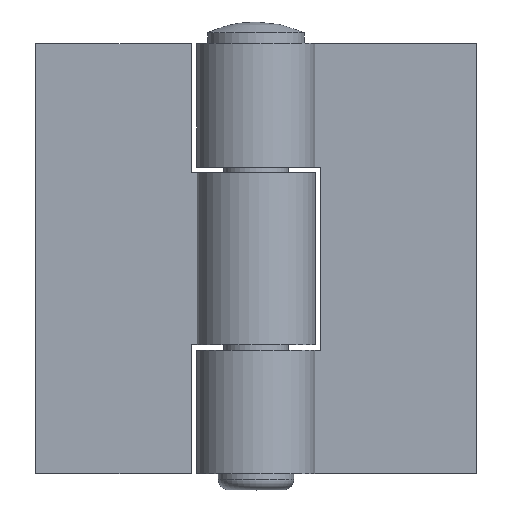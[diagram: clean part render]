
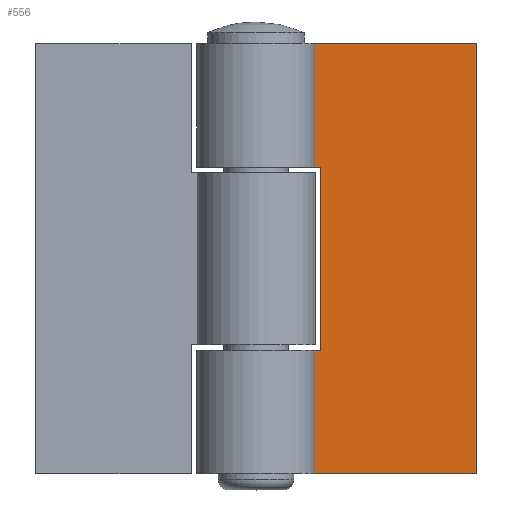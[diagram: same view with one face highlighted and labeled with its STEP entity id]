
A CAD part, top view. The second image highlights one B-rep face of the part: STEP entity #556.
In plain terms, the highlighted planar face has unit normal (0, 0, 1) as drawn and (0, 1, 0) by its records, which use the part's own axes.
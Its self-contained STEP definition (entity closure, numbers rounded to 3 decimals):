
#62=FACE_OUTER_BOUND('',#96,.T.);
#96=EDGE_LOOP('',(#451,#452,#453,#454,#455,#456,#457,#458));
#148=LINE('',#878,#202);
#150=LINE('',#884,#204);
#154=LINE('',#896,#208);
#158=LINE('',#906,#212);
#159=LINE('',#908,#213);
#160=LINE('',#910,#214);
#161=LINE('',#912,#215);
#162=LINE('',#913,#216);
#202=VECTOR('',#703,6.);
#204=VECTOR('',#709,17.);
#208=VECTOR('',#719,6.);
#212=VECTOR('',#729,11.5);
#213=VECTOR('',#730,20.5);
#214=VECTOR('',#731,40.);
#215=VECTOR('',#732,20.5);
#216=VECTOR('',#733,11.5);
#270=VERTEX_POINT('',#875);
#271=VERTEX_POINT('',#877);
#273=VERTEX_POINT('',#883);
#278=VERTEX_POINT('',#894);
#281=VERTEX_POINT('',#905);
#282=VERTEX_POINT('',#907);
#283=VERTEX_POINT('',#909);
#284=VERTEX_POINT('',#911);
#331=EDGE_CURVE('',#271,#270,#148,.T.);
#334=EDGE_CURVE('',#270,#273,#150,.T.);
#340=EDGE_CURVE('',#273,#278,#154,.T.);
#345=EDGE_CURVE('',#281,#278,#158,.T.);
#346=EDGE_CURVE('',#281,#282,#159,.T.);
#347=EDGE_CURVE('',#282,#283,#160,.T.);
#348=EDGE_CURVE('',#283,#284,#161,.T.);
#349=EDGE_CURVE('',#271,#284,#162,.T.);
#451=ORIENTED_EDGE('',*,*,#331,.T.);
#452=ORIENTED_EDGE('',*,*,#334,.T.);
#453=ORIENTED_EDGE('',*,*,#340,.T.);
#454=ORIENTED_EDGE('',*,*,#345,.F.);
#455=ORIENTED_EDGE('',*,*,#346,.T.);
#456=ORIENTED_EDGE('',*,*,#347,.T.);
#457=ORIENTED_EDGE('',*,*,#348,.T.);
#458=ORIENTED_EDGE('',*,*,#349,.F.);
#530=PLANE('',#604);
#556=ADVANCED_FACE('',(#62),#530,.T.);
#604=AXIS2_PLACEMENT_3D('',#904,#727,#728);
#703=DIRECTION('',(-1.,0.,0.));
#709=DIRECTION('',(0.,0.,-1.));
#719=DIRECTION('',(1.,0.,0.));
#727=DIRECTION('center_axis',(0.,1.,0.));
#728=DIRECTION('ref_axis',(0.,0.,1.));
#729=DIRECTION('',(0.,0.,1.));
#730=DIRECTION('',(-1.,0.,0.));
#731=DIRECTION('',(0.,0.,1.));
#732=DIRECTION('',(1.,0.,0.));
#733=DIRECTION('',(0.,0.,1.));
#875=CARTESIAN_POINT('',(-6.,2.5,8.5));
#877=CARTESIAN_POINT('',(0.,2.5,8.5));
#878=CARTESIAN_POINT('',(-7.5,2.5,8.5));
#883=CARTESIAN_POINT('',(-6.,2.5,-8.5));
#884=CARTESIAN_POINT('',(-6.,2.5,-4.));
#894=CARTESIAN_POINT('',(0.,2.5,-8.5));
#896=CARTESIAN_POINT('',(-13.25,2.5,-8.5));
#904=CARTESIAN_POINT('Origin',(-20.5,2.5,0.));
#905=CARTESIAN_POINT('',(0.,2.5,-20.));
#906=CARTESIAN_POINT('',(0.,2.5,0.));
#907=CARTESIAN_POINT('',(-20.5,2.5,-20.));
#908=CARTESIAN_POINT('',(0.,2.5,-20.));
#909=CARTESIAN_POINT('',(-20.5,2.5,20.));
#910=CARTESIAN_POINT('',(-20.5,2.5,0.));
#911=CARTESIAN_POINT('',(0.,2.5,20.));
#912=CARTESIAN_POINT('',(0.,2.5,20.));
#913=CARTESIAN_POINT('',(0.,2.5,0.));
